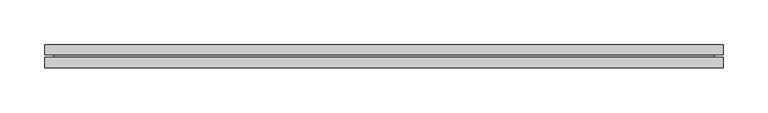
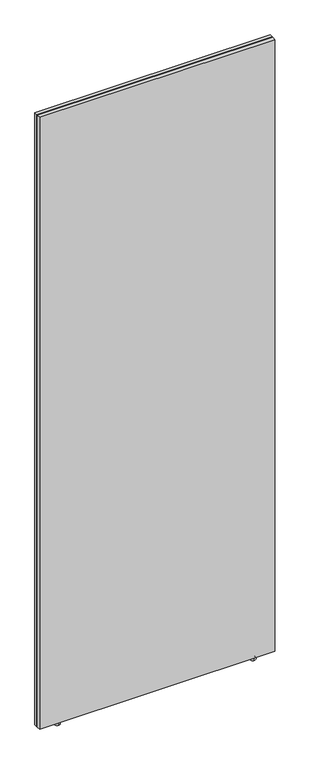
"""IFC4 building model written with IfcOpenShell, lengths in millimetres: furniture geometry, Geiger_GeigerOneCasegoods_WallFrameStandardApplication : 30Wx1Dx82.5H."""

import ifcopenshell
import ifcopenshell.guid

model = None  # the IFC model being written
_history = None  # IfcOwnerHistory: only IFC2X3 demands one
_inside = {}  # id of a spatial element -> (the spatial element, [elements in it])
_under = {}  # id of a project, library or spatial element -> (it, [spatial elements below it])
_declared = {}  # id of a project -> (the project, [libraries it declares])
_typed = {}  # id of a type object -> (the type object, [elements of that type])
_made_of = {}  # id of a material, layer set ... -> (it, [elements and type objects made of it])


def new_model(schema):
    """Start an empty IFC model of exactly this schema.

    Asked for "IFC4X3", IfcOpenShell would pick the latest addendum, in which some entities
    have other attributes; the version numbers below select the first issue.
    IFC2X3 requires an IfcOwnerHistory on every rooted entity: one is made here for all.
    """
    global model, _history
    if schema == "IFC4X3":
        model = ifcopenshell.file(schema_version=(4, 3, 0, 0))
    else:
        model = ifcopenshell.file(schema=schema)
    _inside.clear()
    _under.clear()
    _declared.clear()
    _typed.clear()
    _made_of.clear()
    _history = None
    if model.schema == "IFC2X3":
        org = make("IfcOrganization", Name="unknown")
        user = make(
            "IfcPersonAndOrganization",
            ThePerson=make("IfcPerson", FamilyName="unknown"),
            TheOrganization=org,
        )
        app = make(
            "IfcApplication",
            ApplicationDeveloper=org,
            Version="unknown",
            ApplicationFullName="unknown",
            ApplicationIdentifier="unknown",
        )
        _history = make(
            "IfcOwnerHistory",
            OwningUser=user,
            OwningApplication=app,
            ChangeAction="ADDED",
            CreationDate=0,
        )
    return model


def make(cls, **values):
    """One entity of the class cls with the attributes given. An attribute that is None is left unset."""
    return model.create_entity(
        cls, **{name: value for name, value in values.items() if value is not None}
    )


def rooted(cls, **values):
    """An entity with a GlobalId (a new one), such as an element, a storey or a relation."""
    return make(cls, GlobalId=ifcopenshell.guid.new(), OwnerHistory=_history, **values)


def si_unit(unit_type, name, prefix=None):
    """IfcSIUnit, for example si_unit("LENGTHUNIT", "METRE", prefix="MILLI")."""
    return make("IfcSIUnit", UnitType=unit_type, Prefix=prefix, Name=name)


def assignment(units):
    """IfcUnitAssignment: the units of a project."""
    return None if units is None else make("IfcUnitAssignment", Units=units)


def point(xyz):
    """IfcCartesianPoint."""
    return None if xyz is None else make("IfcCartesianPoint", Coordinates=xyz)


def direction(xyz):
    """IfcDirection."""
    return None if xyz is None else make("IfcDirection", DirectionRatios=xyz)


def frame(location, z_axis=None, x_axis=None):
    """IfcAxis2Placement3D, a coordinate frame: its origin and axes. An axis left out is left unset."""
    return make(
        "IfcAxis2Placement3D",
        Location=point(location),
        Axis=direction(z_axis),
        RefDirection=direction(x_axis),
    )


def origin():
    """The frame at (0, 0, 0) with its axes left unset."""
    return frame((0.0, 0.0, 0.0))


def place(relative_to, where):
    """IfcLocalPlacement: puts the frame where relative to a parent placement (None: the world)."""
    return make(
        "IfcLocalPlacement", PlacementRelTo=relative_to, RelativePlacement=where
    )


def context(
    kind, dimensions, precision=None, world=None, true_north=None, identifier=None
):
    """IfcGeometricRepresentationContext, for example the 3D "Model" context."""
    return make(
        "IfcGeometricRepresentationContext",
        ContextIdentifier=identifier,
        ContextType=kind,
        CoordinateSpaceDimension=dimensions,
        Precision=precision,
        WorldCoordinateSystem=world,
        TrueNorth=true_north,
    )


def project(units=None, contexts=None):
    """IfcProject with its units and contexts."""
    return rooted(
        "IfcProject",
        Name="project",
        RepresentationContexts=contexts,
        UnitsInContext=assignment(units),
    )


def spatial(cls, under=None, at=None, **own):
    """A site, building, storey or space (cls), placed at a placement, below another one or the project."""
    s = rooted(cls, ObjectPlacement=at, **own)
    if under is not None:
        _under.setdefault(under.id(), (under, []))[1].append(s)
    return s


def circle_curve(where, radius):
    """IfcCircle in the frame where."""
    return make("IfcCircle", Position=where, Radius=radius)


def ellipse_curve(where, semi_axis1, semi_axis2):
    """IfcEllipse in the frame where."""
    return make(
        "IfcEllipse", Position=where, SemiAxis1=semi_axis1, SemiAxis2=semi_axis2
    )


def trimmed(basis, trim1, trim2, sense, master):
    """IfcTrimmedCurve: the piece of a basis curve between two trims."""
    return make(
        "IfcTrimmedCurve",
        BasisCurve=basis,
        Trim1=trim1,
        Trim2=trim2,
        SenseAgreement=sense,
        MasterRepresentation=master,
    )


def faces_of(points, faces, orient=None, outer=None):
    """IfcFace entities. A face is a list of loops; a loop is a list of indices into points, from 0.

    orient and outer hold one flag for each loop. By default every Orientation is true, the
    first loop of a face is its IfcFaceOuterBound and the others are IfcFaceBound.
    """
    made = []
    for i, loops in enumerate(faces):
        bounds = []
        for j, loop in enumerate(loops):
            is_outer = j == 0 if outer is None else outer[i][j]
            bounds.append(
                make(
                    "IfcFaceOuterBound" if is_outer else "IfcFaceBound",
                    Bound=make("IfcPolyLoop", Polygon=[points[k] for k in loop]),
                    Orientation=True if orient is None else orient[i][j],
                )
            )
        made.append(make("IfcFace", Bounds=bounds))
    return made


def faceted_brep(points, faces, orient=None, outer=None, voids=None):
    """IfcFacetedBrep: a solid bounded by flat faces; with voids (closed shells), ...WithVoids."""
    shared = [point(p) for p in points]
    hull = make("IfcClosedShell", CfsFaces=faces_of(shared, faces, orient, outer))
    if voids is None:
        return make("IfcFacetedBrep", Outer=hull)
    return make(
        "IfcFacetedBrepWithVoids",
        Outer=hull,
        Voids=[
            make(cls, CfsFaces=faces_of(shared, fs, o, b)) for cls, fs, o, b in voids
        ],
    )


def shape(context_of_items, identifier, shape_type, items):
    """IfcShapeRepresentation: the items that make up one representation, for example the "Body"."""
    return make(
        "IfcShapeRepresentation",
        ContextOfItems=context_of_items,
        RepresentationIdentifier=identifier,
        RepresentationType=shape_type,
        Items=items,
    )


def source(mapping_origin, context_of_items, identifier, shape_type, items):
    """IfcRepresentationMap: a shape defined once, which mapped items show again and again."""
    return make(
        "IfcRepresentationMap",
        MappingOrigin=mapping_origin,
        MappedRepresentation=shape(context_of_items, identifier, shape_type, items),
    )


def transform(
    local_origin,
    x_axis=None,
    y_axis=None,
    z_axis=None,
    scale=None,
    scale2=None,
    scale3=None,
    uniform=True,
):
    """IfcCartesianTransformationOperator3D, or its non-uniform kind. x_axis, y_axis, z_axis: its Axis1, 2, 3."""
    if uniform:
        return make(
            "IfcCartesianTransformationOperator3D",
            Axis1=direction(x_axis),
            Axis2=direction(y_axis),
            LocalOrigin=point(local_origin),
            Scale=scale,
            Axis3=direction(z_axis),
        )
    return make(
        "IfcCartesianTransformationOperator3DnonUniform",
        Axis1=direction(x_axis),
        Axis2=direction(y_axis),
        LocalOrigin=point(local_origin),
        Scale=scale,
        Axis3=direction(z_axis),
        Scale2=scale2,
        Scale3=scale3,
    )


def mapped(mapping_source, mapping_target):
    """IfcMappedItem: shows the shape of a source again, moved by a transform."""
    return make(
        "IfcMappedItem", MappingSource=mapping_source, MappingTarget=mapping_target
    )


def made_of(thing, what):
    """Note that an element or type object is made of a material, layer set ...; save() writes the relation."""
    if what is not None:
        _made_of.setdefault(what.id(), (what, []))[1].append(thing)
    return thing


def element(
    cls,
    number,
    at=None,
    inside=None,
    cuts=None,
    type_object=None,
    material=None,
    context=None,
    identifier="Body",
    shape_type=None,
    held_by="IfcProductDefinitionShape",
    body=None,
    shapes=None,
    **own,
):
    """One element of the class cls, such as IfcWall. Its Tag is "e" and its number.

    at: its placement. inside: the storey or other place that contains it. cuts: it is an
    opening in that element (IfcRelVoidsElement). A single representation is given by context,
    identifier, shape_type and body (its items); several are given by shapes. held_by: the class
    of the entity that holds the representations. save() writes the other relations.
    """
    e = rooted(cls, Tag="e%d" % number, ObjectPlacement=at, **own)
    if body is not None:
        shapes = [shape(context, identifier, shape_type, body)]
    if shapes is not None:
        e.Representation = make(held_by, Representations=shapes)
    if inside is not None:
        _inside.setdefault(inside.id(), (inside, []))[1].append(e)
    if cuts is not None:
        rooted(
            "IfcRelVoidsElement", RelatingBuildingElement=cuts, RelatedOpeningElement=e
        )
    if type_object is not None:
        _typed.setdefault(type_object.id(), (type_object, []))[1].append(e)
    return made_of(e, material)


def aggregate(whole, parts):
    """IfcRelAggregates: a whole, such as a stair, and the parts it consists of."""
    return rooted("IfcRelAggregates", RelatingObject=whole, RelatedObjects=parts)


def save(model, path):
    """Write the relations noted so far, then the file.

    IfcRelAggregates (storeys below a building ...), IfcRelContainedInSpatialStructure (elements
    in a storey), IfcRelDefinesByType, IfcRelAssociatesMaterial and IfcRelDeclares: one each for
    every whole, place, type object, material and project.
    """
    for whole, parts in _under.values():
        aggregate(whole, parts)
    for where, things in _inside.values():
        rooted(
            "IfcRelContainedInSpatialStructure",
            RelatedElements=things,
            RelatingStructure=where,
        )
    for kind, things in _typed.values():
        rooted("IfcRelDefinesByType", RelatedObjects=things, RelatingType=kind)
    for what, things in _made_of.values():
        rooted("IfcRelAssociatesMaterial", RelatedObjects=things, RelatingMaterial=what)
    for by, libraries in _declared.values():
        rooted("IfcRelDeclares", RelatingContext=by, RelatedDefinitions=libraries)
    model.write(path)


def plane_surface(at):
    """IfcPlane: the flat surface through the origin of the frame at, square to its z axis."""
    return make("IfcPlane", Position=at)


def cylinder_surface(at, radius):
    """IfcCylindricalSurface: all points at the distance radius from the z axis of the frame at."""
    return make("IfcCylindricalSurface", Position=at, Radius=radius)


def revolved_surface(curve, axis_point, axis_direction):
    """IfcSurfaceOfRevolution: the curve turned about the line through axis_point along axis_direction."""
    return make(
        "IfcSurfaceOfRevolution",
        SweptCurve=make("IfcArbitraryOpenProfileDef", ProfileType="CURVE", Curve=curve),
        AxisPosition=make("IfcAxis1Placement", Location=point(axis_point), Axis=direction(axis_direction)),
    )


def advanced_brep(points, edges, surfaces, faces):
    """IfcAdvancedBrep: a solid bounded by faces that lie on surfaces and meet in shared edges.

    An edge is (start, end): straight between two places in points (the first is 0);
    or (start, end, curve); or (start, end, curve, False) where it runs against its curve.
    A face is (place in surfaces, loops), or (place, loops, False) where it looks against
    its surface's normal. A loop lists edges by number (the first is 1), with a minus sign
    where the edge is run from its end to its start. The first loop is the outer one.
    """
    corners = [point(p) for p in points]
    vertices = [make("IfcVertexPoint", VertexGeometry=c) for c in corners]
    made = []
    for start, end, *more in edges:
        made.append(
            make(
                "IfcEdgeCurve",
                EdgeStart=vertices[start],
                EdgeEnd=vertices[end],
                EdgeGeometry=more[0] if more else make("IfcPolyline", Points=[corners[start], corners[end]]),
                SameSense=more[1] if len(more) > 1 else True,
            )
        )
    hull = []
    for where, loops, *sense in faces:
        bounds = []
        for j, loop in enumerate(loops):
            ring = [make("IfcOrientedEdge", EdgeElement=made[abs(k) - 1], Orientation=k > 0) for k in loop]
            bounds.append(
                make(
                    "IfcFaceOuterBound" if j == 0 else "IfcFaceBound",
                    Bound=make("IfcEdgeLoop", EdgeList=ring),
                    Orientation=True,
                )
            )
        hull.append(make("IfcAdvancedFace", Bounds=bounds, FaceSurface=surfaces[where], SameSense=sense[0] if sense else True))
    return make("IfcAdvancedBrep", Outer=make("IfcClosedShell", CfsFaces=hull))


def furniture_a84eccc4(model_context):
    return source(origin(), model_context, "Body", "SolidModel", [
        faceted_brep([(762.0, 26.0, 12.7), (0.0, 26.0, 12.7), (0.0, 26.0, 2108.2), (762.0, 26.0, 2108.2), (762.0, 0.0, 2108.2), (0.0, 0.0, 2108.2), (0.0, 0.0, 12.7), (762.0, 0.0, 12.7), (762.0, 14.5, 2108.2), (762.0, 14.5, 12.7), (751.0, 11.5, 2097.2), (751.0, 11.5, 23.7), (751.0, 14.5, 23.7), (751.0, 14.5, 2097.2), (762.0, 11.5, 12.7), (762.0, 11.5, 2108.2), (0.0, 14.5, 12.7), (11.0, 11.5, 23.7), (11.0, 14.5, 23.7), (0.0, 11.5, 12.7), (0.0, 14.5, 2108.2), (11.0, 11.5, 2097.2), (11.0, 14.5, 2097.2), (0.0, 11.5, 2108.2)], [[[0, 1, 2, 3]], [[4, 5, 6, 7]], [[8, 9, 0, 3]], [[10, 11, 12, 13]], [[4, 7, 14, 15]], [[9, 16, 1, 0]], [[11, 17, 18, 12]], [[7, 6, 19, 14]], [[16, 20, 2, 1]], [[17, 21, 22, 18]], [[6, 5, 23, 19]], [[3, 2, 20, 8]], [[8, 20, 16, 9], [12, 18, 22, 13]], [[13, 22, 21, 10]], [[14, 19, 23, 15], [10, 21, 17, 11]], [[15, 23, 5, 4]]]),
        advanced_brep(
        [(698.0, 13.0, 0.0), (698.0, 17.7387577, 0.0), (698.0, 8.2612423, 0.0), (698.0, 18.8637403, 9.4), (698.0, 7.1362597, 9.4), (698.0, 20.25, 9.4), (698.0, 5.75, 9.4), (698.0, 20.25, 12.7), (698.0, 5.75, 12.7), (698.0, 13.0, 12.7)],
        [
            (0, 1),
            (1, 2, circle_curve(frame((698.0, 13.0, 0.0), z_axis=(0.0, 0.0, -1.0), x_axis=(0.0, -1.0, 0.0)), 4.7387577)),
            (2, 0),
            (2, 1, circle_curve(frame((698.0, 13.0, 0.0), z_axis=(0.0, 0.0, -1.0), x_axis=(0.0, -1.0, 0.0)), 4.7387577)),
            (1, 3, circle_curve(frame((698.0, 17.7387577, 4.7673184), z_axis=(1.0, 0.0, 0.0), x_axis=(0.0, 1.0, 0.0)), 4.7673184)),
            (3, 4, circle_curve(frame((698.0, 13.0, 9.4), z_axis=(0.0, 0.0, -1.0), x_axis=(0.0, -1.0, 0.0)), 5.8637403)),
            (4, 2, circle_curve(frame((698.0, 8.2612423, 4.7673184), z_axis=(1.0, 0.0, 0.0), x_axis=(0.0, -1.0, 0.0)), 4.7673184)),
            (4, 3, circle_curve(frame((698.0, 13.0, 9.4), z_axis=(0.0, 0.0, -1.0), x_axis=(0.0, -1.0, 0.0)), 5.8637403)),
            (3, 5),
            (5, 6, circle_curve(frame((698.0, 13.0, 9.4), z_axis=(0.0, 0.0, -1.0), x_axis=(0.0, -1.0, 0.0)), 7.25)),
            (6, 4),
            (6, 5, circle_curve(frame((698.0, 13.0, 9.4), z_axis=(0.0, 0.0, -1.0), x_axis=(0.0, -1.0, 0.0)), 7.25)),
            (5, 7),
            (7, 8, circle_curve(frame((698.0, 13.0, 12.7), z_axis=(0.0, 0.0, -1.0), x_axis=(0.0, -1.0, 0.0)), 7.25)),
            (8, 6),
            (8, 7, circle_curve(frame((698.0, 13.0, 12.7), z_axis=(0.0, 0.0, -1.0), x_axis=(0.0, -1.0, 0.0)), 7.25)),
            (7, 9),
            (9, 8),
        ],
        [
            plane_surface(frame((698.0, 13.0, 0.0), z_axis=(0.0, 0.0, -1.0), x_axis=(0.0, -1.0, 0.0))),
            revolved_surface(trimmed(ellipse_curve(frame((698.0, 8.2612423, 4.7673184), z_axis=(1.0, 0.0, 0.0), x_axis=(0.0, -1.0, 0.0)), 4.7673184, 4.7673184), [point((698.0, 7.1362597, 9.4))], [point((698.0, 8.2612423, 0.0))], True, "CARTESIAN"), (698.0, 13.0, 0.0), (0.0, 0.0, -1.0)),
            plane_surface(frame((698.0, 13.0, 9.4), z_axis=(0.0, 0.0, -1.0), x_axis=(0.0, -1.0, 0.0))),
            cylinder_surface(frame((698.0, 13.0, 0.0), z_axis=(0.0, 0.0, -1.0), x_axis=(0.0, -1.0, 0.0)), 7.25),
            plane_surface(frame((698.0, 13.0, 12.7), z_axis=(0.0, 0.0, 1.0), x_axis=(0.0, -1.0, 0.0))),
        ],
        [
            (0, [[1, 2, 3]]),
            (0, [[-3, 4, -1]]),
            (1, [[5, 6, 7, -2]]),
            (1, [[-7, 8, -5, -4]]),
            (2, [[9, 10, 11, -6]]),
            (2, [[-11, 12, -9, -8]]),
            (3, [[13, 14, 15, -10]]),
            (3, [[-15, 16, -13, -12]]),
            (4, [[17, 18, -14]]),
            (4, [[-18, -17, -16]]),
        ],
    ),
        advanced_brep(
        [(64.0, 17.7387577, 0.0), (64.0, 13.0, 0.0), (64.0, 8.2612423, 0.0), (64.0, 18.8637403, 9.4), (64.0, 7.1362597, 9.4), (64.0, 20.25, 9.4), (64.0, 5.75, 9.4), (64.0, 20.25, 12.7), (64.0, 5.75, 12.7), (64.0, 13.0, 12.7)],
        [
            (0, 1),
            (1, 2),
            (2, 0, circle_curve(frame((64.0, 13.0, 0.0), z_axis=(0.0, 0.0, -1.0), x_axis=(0.0, -1.0, 0.0)), 4.7387577)),
            (0, 2, circle_curve(frame((64.0, 13.0, 0.0), z_axis=(0.0, 0.0, -1.0), x_axis=(0.0, -1.0, 0.0)), 4.7387577)),
            (3, 0, circle_curve(frame((64.0, 17.7387577, 4.7673184), z_axis=(-1.0, 0.0, 0.0), x_axis=(0.0, 1.0, 0.0)), 4.7673184)),
            (2, 4, circle_curve(frame((64.0, 8.2612423, 4.7673184), z_axis=(-1.0, 0.0, 0.0), x_axis=(0.0, -1.0, 0.0)), 4.7673184)),
            (4, 3, circle_curve(frame((64.0, 13.0, 9.4), z_axis=(0.0, 0.0, -1.0), x_axis=(0.0, -1.0, 0.0)), 5.8637403)),
            (3, 4, circle_curve(frame((64.0, 13.0, 9.4), z_axis=(0.0, 0.0, -1.0), x_axis=(0.0, -1.0, 0.0)), 5.8637403)),
            (5, 3),
            (4, 6),
            (6, 5, circle_curve(frame((64.0, 13.0, 9.4), z_axis=(0.0, 0.0, -1.0), x_axis=(0.0, -1.0, 0.0)), 7.25)),
            (5, 6, circle_curve(frame((64.0, 13.0, 9.4), z_axis=(0.0, 0.0, -1.0), x_axis=(0.0, -1.0, 0.0)), 7.25)),
            (7, 5),
            (6, 8),
            (8, 7, circle_curve(frame((64.0, 13.0, 12.7), z_axis=(0.0, 0.0, -1.0), x_axis=(0.0, -1.0, 0.0)), 7.25)),
            (7, 8, circle_curve(frame((64.0, 13.0, 12.7), z_axis=(0.0, 0.0, -1.0), x_axis=(0.0, -1.0, 0.0)), 7.25)),
            (9, 7),
            (8, 9),
        ],
        [
            plane_surface(frame((64.0, 13.0, 0.0), z_axis=(0.0, 0.0, -1.0), x_axis=(0.0, -1.0, 0.0))),
            revolved_surface(trimmed(ellipse_curve(frame((64.0, 8.2612423, 4.7673184), z_axis=(-1.0, 0.0, 0.0), x_axis=(0.0, -1.0, 0.0)), 4.7673184, 4.7673184), [point((64.0, 8.2612423, 0.0))], [point((64.0, 7.1362597, 9.4))], True, "CARTESIAN"), (64.0, 13.0, 0.0), (0.0, 0.0, 1.0)),
            plane_surface(frame((64.0, 13.0, 9.4), z_axis=(0.0, 0.0, -1.0), x_axis=(0.0, -1.0, 0.0))),
            cylinder_surface(frame((64.0, 13.0, 0.0), z_axis=(0.0, 0.0, 1.0), x_axis=(0.0, -1.0, 0.0)), 7.25),
            plane_surface(frame((64.0, 13.0, 12.7), z_axis=(0.0, 0.0, 1.0), x_axis=(0.0, -1.0, 0.0))),
        ],
        [
            (0, [[1, 2, 3]]),
            (0, [[-2, -1, 4]]),
            (1, [[5, -3, 6, 7]]),
            (1, [[-6, -4, -5, 8]]),
            (2, [[9, -7, 10, 11]]),
            (2, [[-10, -8, -9, 12]]),
            (3, [[13, -11, 14, 15]]),
            (3, [[-14, -12, -13, 16]]),
            (4, [[17, -15, 18]]),
            (4, [[-18, -16, -17]]),
        ],
    ),
    ])


if __name__ == "__main__":
    model = new_model("IFC4")
    model_context = context("Model", 3, world=origin())
    ifc_project = project(units=[si_unit("LENGTHUNIT", "METRE", prefix="MILLI")], contexts=[model_context])
    site = spatial("IfcSite", under=ifc_project)
    building = spatial("IfcBuilding", under=site)
    placement = place(None, origin())
    furniture_shape = furniture_a84eccc4(model_context)
    element("IfcFurniture", 1, ObjectType="Geiger_GeigerOneCasegoods_WallFrameStandardApplication : 30Wx1Dx82.5H", at=placement, inside=building, context=model_context, shape_type="MappedRepresentation", body=[
        mapped(furniture_shape, transform((0.0, 0.0, 0.0), x_axis=(1.0, 0.0, 0.0), y_axis=(0.0, 1.0, 0.0), z_axis=(0.0, 0.0, 1.0))),
    ])
    save(model, "model.ifc")
